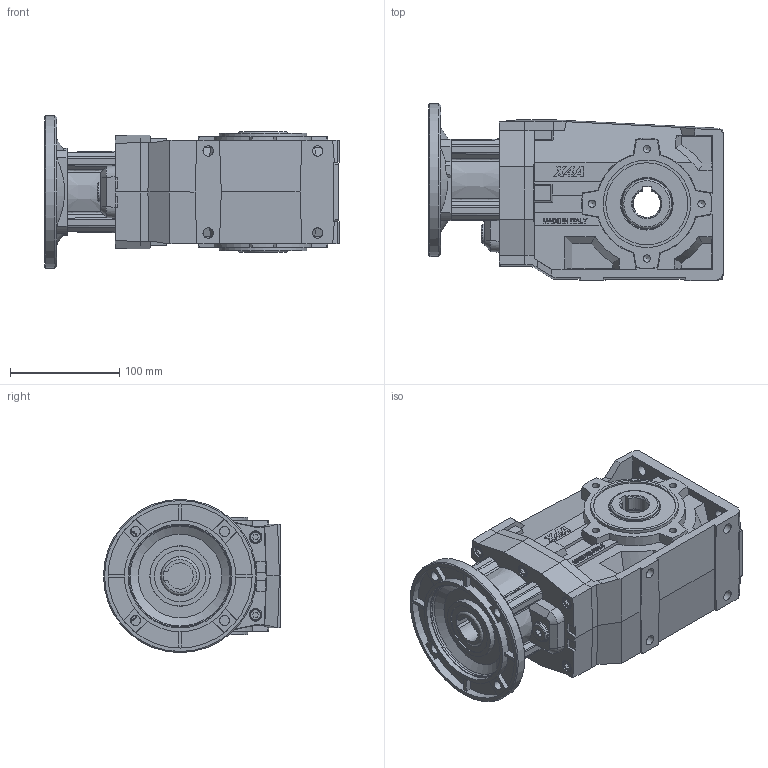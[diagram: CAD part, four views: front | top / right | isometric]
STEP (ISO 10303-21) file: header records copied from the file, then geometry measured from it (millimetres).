
FILE_DESCRIPTION( ( 'Unknown' ), '1' );
FILE_NAME( 'E:/services/configuratordownloads/customers/hydromec/x/download/342D2EC580C8659EE3A98DA219AACD29/STEP/342D2EC580C8659EE3A98DA219AACD29.3d.stp', 'Unknown', ( 'Unknown' ), ( 'Unknown' ), 'PSStep 10.1', 'Unknown', ' ' );
FILE_SCHEMA( ( 'AUTOMOTIVE_DESIGN { 1 0 10303 214 1 1 1 1 }' ) );
Length unit declared in the file: millimetre
Products named in the file (1): X3A9050
Bounding box: 269.5 x 161.78 x 139.97 mm (x, y, z)
Volume: 2785722.3 mm3; surface area: 229235.3 mm2
Topology: 1 solids, 21 shells, 1030 faces, 2647 edges, 1738 vertices
Faces by surface type: plane 756, cylinder 113, cone 113, torus 18, extrusion 16, bspline 14
Full cylindrical faces by diameter (mm): 4.917 x14, 5 x1, 6 x8, 6.647 x8, 7.15 x4, 9 x4, 9.5 x8, 10 x6, 11.5 x3, 12 x8, 13.5 x1, 18 x1, 19 x1, 20 x1, 35 x1, 35.5 x1, 45.05 x2, 47 x2, 75 x2, 80 x2, 95 x1
Entity records: 39703 total; most frequent: CARTESIAN_POINT 7736, ORIENTED_EDGE 4714, DIRECTION 4667, EDGE_CURVE 2357, VECTOR 1691, LINE 1675, VERTEX_POINT 1649, AXIS2_PLACEMENT_3D 1488
